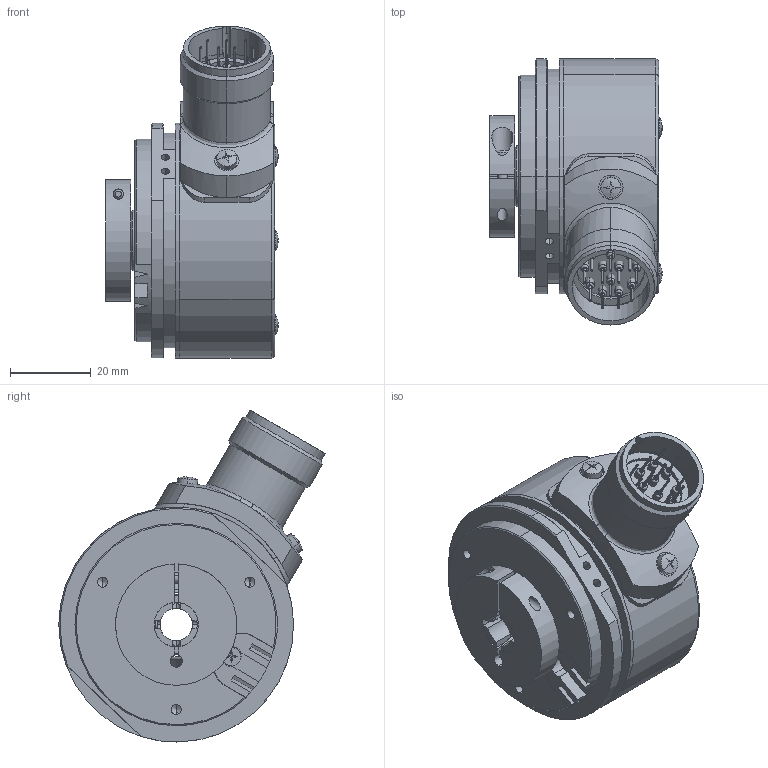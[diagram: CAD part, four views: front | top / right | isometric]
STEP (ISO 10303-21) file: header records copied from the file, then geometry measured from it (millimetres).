
FILE_DESCRIPTION (( 'STEP AP214' ), '1' );
FILE_NAME ('5825.13X2.XXXX.STEP', '2009-07-03T08:38:39', ( 'admin' ), ( 'Fritz Kübler GmbH' ), 'SwSTEP 2.0', 'SolidWorks 2009', '' );
FILE_SCHEMA (( 'AUTOMOTIVE_DESIGN' ));
Length unit declared in the file: millimetre
Products named in the file (1): 5825.13X2.XXXX
Bounding box: 42.58 x 65.81 x 82.01 mm (x, y, z)
Volume: 57149.1 mm3; surface area: 40622.9 mm2
Topology: 28 solids, 28 shells, 879 faces, 2012 edges, 1227 vertices
Faces by surface type: cylinder 391, plane 254, cone 144, torus 52, sphere 34, bspline 4
Entity records: 36345 total; most frequent: CARTESIAN_POINT 6092, DIRECTION 4610, ORIENTED_EDGE 3920, EDGE_CURVE 1960, AXIS2_PLACEMENT_3D 1888, VERTEX_POINT 1227, EDGE_LOOP 1027, CIRCLE 1012
